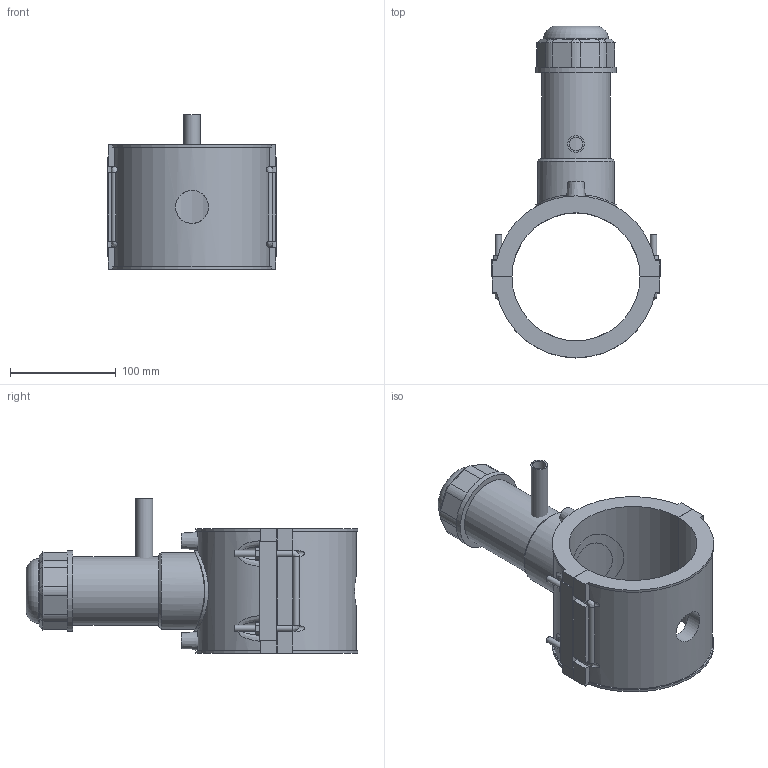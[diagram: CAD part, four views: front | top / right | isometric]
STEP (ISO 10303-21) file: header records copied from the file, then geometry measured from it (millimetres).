
FILE_DESCRIPTION(/* description */ ('PLASSON TAPPING SADDLE 4''''DIPS x 1/2''''CTS'),/* implementation_level */ '2;1');
FILE_NAME(/* name */ 'C:\Dropbox\KIMPROJECTS-Inventor 2019\99-16-3568-Processing Inch\ASTM ElectroFusion 2021\5963DBP_5963BUP\5963DUP3040005.ipt.stp',/* time_stamp */ '2021-08-30T09:58:53+03:00',/* author */ ('KIM'),/* organization */ (''),/* preprocessor_version */ 'ST-DEVELOPER v17.2',/* originating_system */ 'Autodesk Inventor 2019',/* authorisation */ '');
FILE_SCHEMA (('AUTOMOTIVE_DESIGN { 1 0 10303 214 3 1 1 }'));
Length unit declared in the file: inch
Products named in the file (1): 5963DUP3040005
Bounding box: 161 x 314.4 x 146.43 mm (x, y, z)
Volume: 1144215.1 mm3; surface area: 214908.1 mm2
Topology: 3 solids, 3 shells, 194 faces, 502 edges, 328 vertices
Faces by surface type: plane 118, cylinder 52, cone 15, bspline 8, torus 1
Full cylindrical faces by diameter (mm): 4 x2, 6 x8, 10 x2, 12.64 x1, 15.8 x1, 31.36 x1, 53.493 x1, 61.135 x1, 64.956 x1, 72.598 x1, 76.419 x2
Entity records: 7083 total; most frequent: CARTESIAN_POINT 2282, ORIENTED_EDGE 1004, DIRECTION 953, EDGE_CURVE 502, VERTEX_POINT 328, AXIS2_PLACEMENT_3D 322, LINE 309, VECTOR 309
